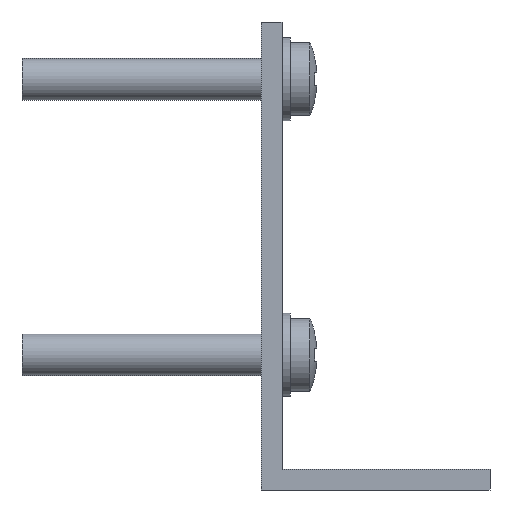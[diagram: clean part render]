
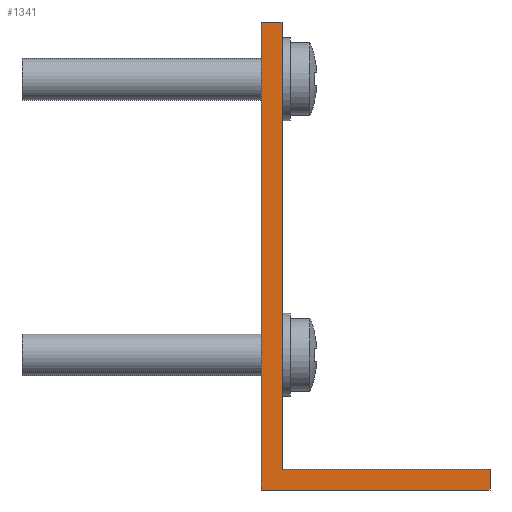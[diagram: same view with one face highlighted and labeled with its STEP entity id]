
A CAD part, front view. The second image highlights one B-rep face of the part: STEP entity #1341.
In plain terms, the highlighted planar face has unit normal (0, -1, 0).
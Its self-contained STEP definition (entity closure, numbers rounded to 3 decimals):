
#293 = CARTESIAN_POINT ( 'NONE',  ( 0., -32., 45. ) ) ;
#294 = DIRECTION ( 'NONE',  ( 0., 0., 1. ) ) ;
#295 = VECTOR ( 'NONE', #294, 1000. ) ;
#296 = CARTESIAN_POINT ( 'NONE',  ( 0., -32., 0. ) ) ;
#297 = LINE ( 'NONE', #296, #295 ) ;
#315 = CARTESIAN_POINT ( 'NONE',  ( 0., -32., 0. ) ) ;
#559 = CARTESIAN_POINT ( 'NONE',  ( 22., -32., 2. ) ) ;
#649 = CARTESIAN_POINT ( 'NONE',  ( 2., -32., 45. ) ) ;
#665 = CARTESIAN_POINT ( 'NONE',  ( 2., -32., 2. ) ) ;
#666 = DIRECTION ( 'NONE',  ( 0., 0., 1. ) ) ;
#667 = VECTOR ( 'NONE', #666, 1000. ) ;
#668 = CARTESIAN_POINT ( 'NONE',  ( 2., -32., 0. ) ) ;
#669 = LINE ( 'NONE', #668, #667 ) ;
#793 = DIRECTION ( 'NONE',  ( 0., 0., 1. ) ) ;
#794 = DIRECTION ( 'NONE',  ( 0., -1., 0. ) ) ;
#795 = CARTESIAN_POINT ( 'NONE',  ( 0., -32., 45. ) ) ;
#796 = AXIS2_PLACEMENT_3D ( 'NONE', #795, #794, #793 ) ;
#797 = PLANE ( 'NONE',  #796 ) ;
#798 = FACE_OUTER_BOUND ( 'NONE', #1357, .T. ) ;
#812 = DIRECTION ( 'NONE',  ( 1., 0., 0. ) ) ;
#813 = VECTOR ( 'NONE', #812, 1000. ) ;
#814 = CARTESIAN_POINT ( 'NONE',  ( 0., -32., 45. ) ) ;
#818 = LINE ( 'NONE', #814, #813 ) ;
#855 = CARTESIAN_POINT ( 'NONE',  ( 22., -32., 0. ) ) ;
#856 = LINE ( 'NONE', #855, #876 ) ;
#875 = DIRECTION ( 'NONE',  ( 0., 0., -1. ) ) ;
#876 = VECTOR ( 'NONE', #875, 1000. ) ;
#893 = DIRECTION ( 'NONE',  ( -1., 0., 0. ) ) ;
#894 = VECTOR ( 'NONE', #893, 1000. ) ;
#895 = CARTESIAN_POINT ( 'NONE',  ( 0., -32., 2. ) ) ;
#896 = LINE ( 'NONE', #895, #894 ) ;
#1191 = VERTEX_POINT ( 'NONE', #1998 ) ;
#1193 = EDGE_CURVE ( 'NONE', #1191, #1747, #2012, .T. ) ;
#1212 = EDGE_CURVE ( 'NONE', #1213, #1269, #896, .T. ) ;
#1213 = VERTEX_POINT ( 'NONE', #559 ) ;
#1268 = EDGE_CURVE ( 'NONE', #1269, #1274, #669, .T. ) ;
#1269 = VERTEX_POINT ( 'NONE', #665 ) ;
#1274 = VERTEX_POINT ( 'NONE', #649 ) ;
#1341 = ADVANCED_FACE ( 'NONE', ( #798 ), #797, .T. ) ;
#1342 = ORIENTED_EDGE ( 'NONE', *, *, #1268, .T. ) ;
#1343 = ORIENTED_EDGE ( 'NONE', *, *, #1364, .F. ) ;
#1344 = ORIENTED_EDGE ( 'NONE', *, *, #1749, .F. ) ;
#1357 = EDGE_LOOP ( 'NONE', ( #1342, #1343, #1344, #1358, #1359, #1360 ) ) ;
#1358 = ORIENTED_EDGE ( 'NONE', *, *, #1193, .F. ) ;
#1359 = ORIENTED_EDGE ( 'NONE', *, *, #1417, .F. ) ;
#1360 = ORIENTED_EDGE ( 'NONE', *, *, #1212, .T. ) ;
#1364 = EDGE_CURVE ( 'NONE', #1750, #1274, #818, .T. ) ;
#1417 = EDGE_CURVE ( 'NONE', #1213, #1191, #856, .T. ) ;
#1747 = VERTEX_POINT ( 'NONE', #315 ) ;
#1749 = EDGE_CURVE ( 'NONE', #1747, #1750, #297, .T. ) ;
#1750 = VERTEX_POINT ( 'NONE', #293 ) ;
#1998 = CARTESIAN_POINT ( 'NONE',  ( 22., -32., 0. ) ) ;
#2009 = DIRECTION ( 'NONE',  ( -1., 0., 0. ) ) ;
#2010 = VECTOR ( 'NONE', #2009, 1000. ) ;
#2011 = CARTESIAN_POINT ( 'NONE',  ( 0., -32., 0. ) ) ;
#2012 = LINE ( 'NONE', #2011, #2010 ) ;
